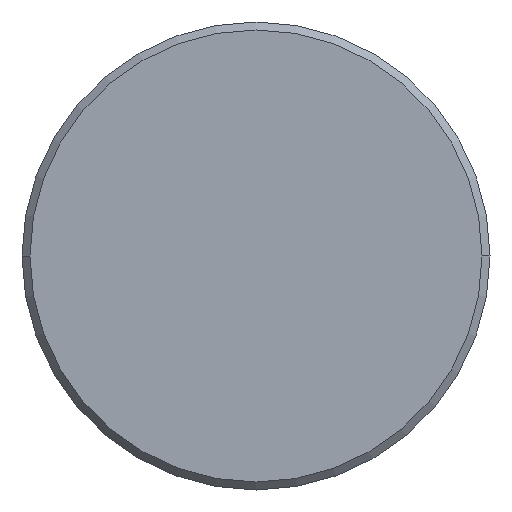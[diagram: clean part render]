
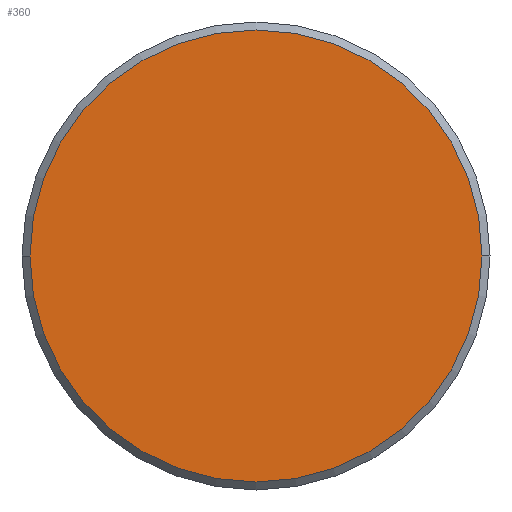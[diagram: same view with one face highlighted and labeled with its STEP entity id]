
A CAD part, left-side view. The second image highlights one B-rep face of the part: STEP entity #360.
In plain terms, the highlighted planar face has unit normal (-1, 0, 0).
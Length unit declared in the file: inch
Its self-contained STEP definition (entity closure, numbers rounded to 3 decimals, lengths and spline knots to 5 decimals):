
#21 = EDGE_CURVE ( 'NONE', #284, #228, #342, .T. ) ;
#45 = CARTESIAN_POINT ( 'NONE',  ( 0., 0., 0. ) ) ;
#49 = ORIENTED_EDGE ( 'NONE', *, *, #312, .T. ) ;
#69 = DIRECTION ( 'NONE',  ( 0., -1., 0. ) ) ;
#89 = CARTESIAN_POINT ( 'NONE',  ( 0., -0.11319, 0. ) ) ;
#121 = EDGE_LOOP ( 'NONE', ( #132, #49 ) ) ;
#132 = ORIENTED_EDGE ( 'NONE', *, *, #21, .T. ) ;
#155 = DIRECTION ( 'NONE',  ( 0., -1., 0. ) ) ;
#165 = CIRCLE ( 'NONE', #213, 0.11319 ) ;
#171 = CARTESIAN_POINT ( 'NONE',  ( 0., 0.11319, 0. ) ) ;
#175 = AXIS2_PLACEMENT_3D ( 'NONE', #45, #333, #69 ) ;
#191 = DIRECTION ( 'NONE',  ( -1., 0., 0. ) ) ;
#213 = AXIS2_PLACEMENT_3D ( 'NONE', #314, #191, #155 ) ;
#224 = FACE_OUTER_BOUND ( 'NONE', #121, .T. ) ;
#228 = VERTEX_POINT ( 'NONE', #89 ) ;
#278 = PLANE ( 'NONE',  #356 ) ;
#281 = CARTESIAN_POINT ( 'NONE',  ( 0., 0., 0. ) ) ;
#284 = VERTEX_POINT ( 'NONE', #171 ) ;
#312 = EDGE_CURVE ( 'NONE', #228, #284, #165, .T. ) ;
#313 = DIRECTION ( 'NONE',  ( -1., 0., 0. ) ) ;
#314 = CARTESIAN_POINT ( 'NONE',  ( 0., 0., 0. ) ) ;
#333 = DIRECTION ( 'NONE',  ( -1., 0., 0. ) ) ;
#342 = CIRCLE ( 'NONE', #175, 0.11319 ) ;
#347 = DIRECTION ( 'NONE',  ( 0., -1., 0. ) ) ;
#356 = AXIS2_PLACEMENT_3D ( 'NONE', #281, #313, #347 ) ;
#360 = ADVANCED_FACE ( 'NONE', ( #224 ), #278, .T. ) ;
